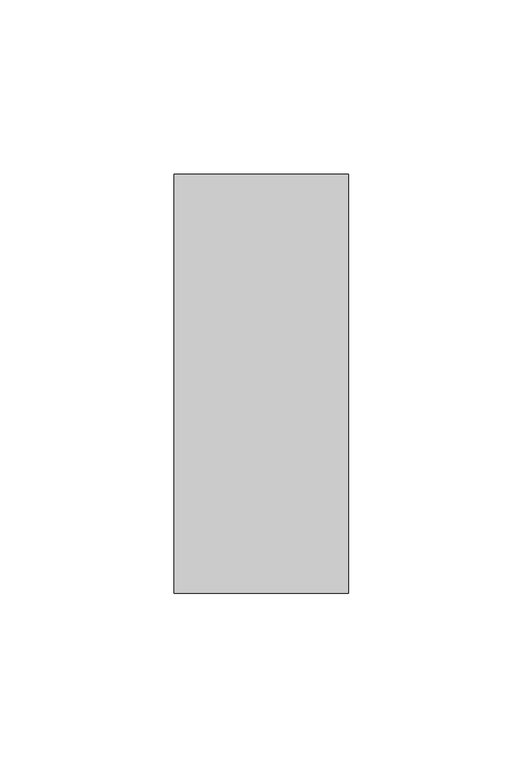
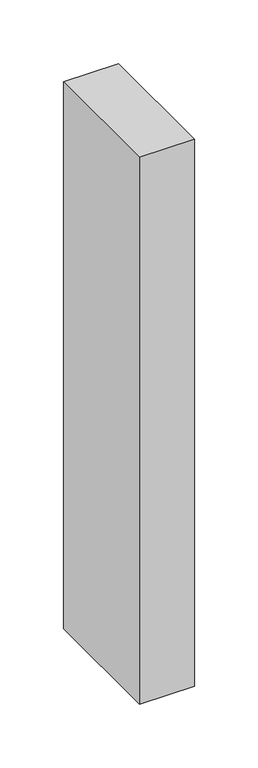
"""IFC4 building model written with IfcOpenShell, lengths in millimetres: member geometry, Прямоугольный импост : 50х120 мм."""

from ifc_helpers import new_model, si_unit, frame, origin, place, context, project, spatial, polyline, outline, extrude, source, transform, mapped, element, save


def member_4268e8c1(model_context):
    return source(origin(), model_context, "Body", "SweptSolid", [
        extrude(outline(polyline([(0.0, 60.0), (0.0, -60.0), (-50.0, -60.0), (-50.0, 60.0), (0.0, 60.0)])), frame((0.0, 0.0, -525.7311121), z_axis=(0.0, 0.0, 1.0), x_axis=(1.0, 0.0, 0.0)), (0.0, 0.0, 1.0), 525.7311121),
    ])


if __name__ == "__main__":
    model = new_model("IFC4")
    model_context = context("Model", 3, world=origin())
    ifc_project = project(units=[si_unit("LENGTHUNIT", "METRE", prefix="MILLI")], contexts=[model_context])
    site = spatial("IfcSite", under=ifc_project)
    building = spatial("IfcBuilding", under=site)
    placement = place(None, origin())
    member_shape = member_4268e8c1(model_context)
    element("IfcMember", 1, ObjectType="Прямоугольный импост : 50х120 мм", at=placement, inside=building, context=model_context, shape_type="MappedRepresentation", body=[
        mapped(member_shape, transform((0.0, 0.0, 0.0), x_axis=(1.0, 0.0, 0.0), y_axis=(0.0, 1.0, 0.0), z_axis=(0.0, 0.0, 1.0))),
    ])
    save(model, "model.ifc")
